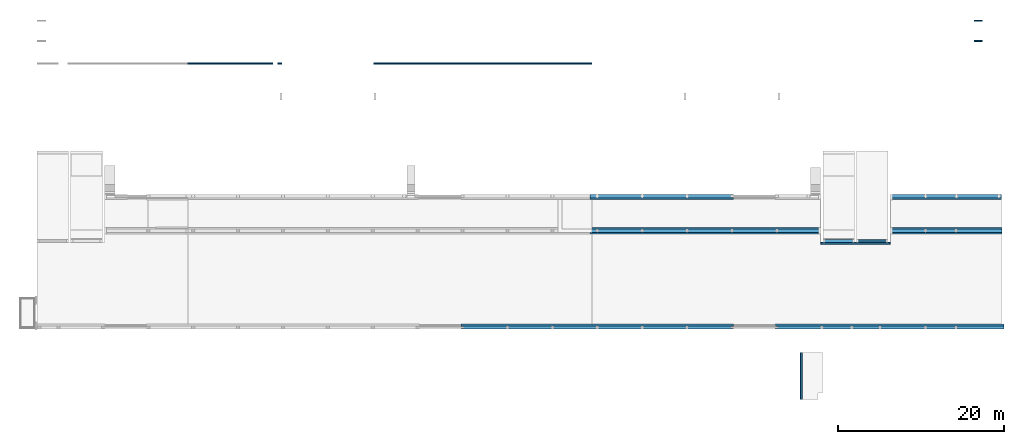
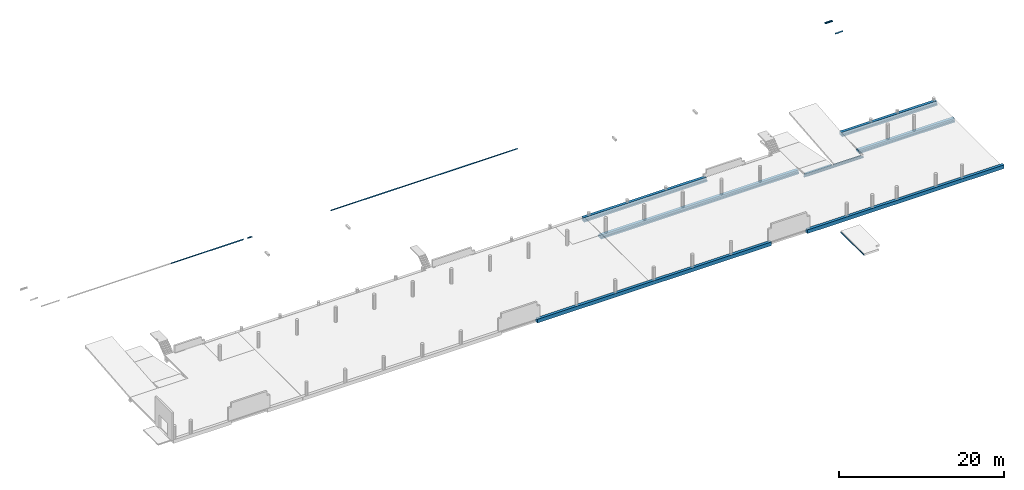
# One storey, part 2 of 6: 15 beams.
"""IFC2X3 building model written with IfcOpenShell, lengths in millimetres."""

from ifc_helpers import new_model, entity, si_unit, converted_unit, derived_unit, direction, frame, frame_2d, origin, place, context, subcontext, project, spatial, polyline, circle_curve, parameter, trimmed, segment, composite_curve, rectangle, outline, extrude, source, transform, mapped, material, type_object, type_shapes, element, save


model = new_model("IFC2X3")

# Units and contexts
model_context = context("Model", 3, precision=0.01, world=origin(), true_north=direction((6.12303176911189e-17, 1.0)))
body_context = subcontext(model_context, "Body", "Model", "MODEL_VIEW")
ifc_project = project(units=[si_unit("LENGTHUNIT", "METRE", prefix="MILLI"), si_unit("AREAUNIT", "SQUARE_METRE"), si_unit("VOLUMEUNIT", "CUBIC_METRE"), converted_unit("PLANEANGLEUNIT", "DEGREE", entity("IfcRatioMeasure", 0.0174532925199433), si_unit("PLANEANGLEUNIT", "RADIAN"), dimensions=[0, 0, 0, 0, 0, 0, 0]), si_unit("MASSUNIT", "GRAM", prefix="KILO"), derived_unit("MASSDENSITYUNIT", [(si_unit("MASSUNIT", "GRAM", prefix="KILO"), 1), (si_unit("LENGTHUNIT", "METRE"), -3)]), si_unit("TIMEUNIT", "SECOND"), si_unit("FREQUENCYUNIT", "HERTZ"), si_unit("THERMODYNAMICTEMPERATUREUNIT", "DEGREE_CELSIUS"), derived_unit("THERMALTRANSMITTANCEUNIT", [(si_unit("MASSUNIT", "GRAM", prefix="KILO"), 1), (si_unit("THERMODYNAMICTEMPERATUREUNIT", "KELVIN"), -1), (si_unit("TIMEUNIT", "SECOND"), -3)]), derived_unit("VOLUMETRICFLOWRATEUNIT", [(si_unit("LENGTHUNIT", "METRE"), 3), (si_unit("TIMEUNIT", "SECOND"), -1)]), si_unit("ELECTRICCURRENTUNIT", "AMPERE"), si_unit("ELECTRICVOLTAGEUNIT", "VOLT"), si_unit("POWERUNIT", "WATT"), si_unit("FORCEUNIT", "NEWTON", prefix="KILO"), si_unit("ILLUMINANCEUNIT", "LUX"), si_unit("LUMINOUSFLUXUNIT", "LUMEN"), si_unit("LUMINOUSINTENSITYUNIT", "CANDELA"), derived_unit("USERDEFINED", [(si_unit("MASSUNIT", "GRAM", prefix="KILO"), -1), (si_unit("LENGTHUNIT", "METRE"), -2), (si_unit("TIMEUNIT", "SECOND"), 3), (si_unit("LUMINOUSFLUXUNIT", "LUMEN"), 1)]), derived_unit("LINEARVELOCITYUNIT", [(si_unit("LENGTHUNIT", "METRE"), 1), (si_unit("TIMEUNIT", "SECOND"), -1)]), si_unit("PRESSUREUNIT", "PASCAL"), derived_unit("USERDEFINED", [(si_unit("LENGTHUNIT", "METRE"), -2), (si_unit("MASSUNIT", "GRAM", prefix="KILO"), 1), (si_unit("TIMEUNIT", "SECOND"), -2)])], contexts=[model_context])

# Site, building, storey
site_placement = place(None, origin())
site = spatial("IfcSite", under=ifc_project, at=site_placement, Name="Default", CompositionType="ELEMENT")
building_placement = place(site_placement, origin())
building = spatial("IfcBuilding", under=site, at=building_placement, Name="niet gebruiken", CompositionType="ELEMENT")
storey_placement = place(building_placement, frame((0.0, 0.0, 8370.0)))
storey = spatial("IfcBuildingStorey", under=building, at=storey_placement, Name="02a eerste tussenverdieping", CompositionType="ELEMENT", Elevation=8369.99999999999)

# Beams
ifc_material_1 = material(Name="NLRS_h2_staal")
beam_type_1 = type_object("IfcBeamType", Name="NLRS_28.11_SF_WPB_stalen ligger hoekprofiel gelijkzijdig_gen:ligger gelijzijdig hoekprofiel LEQU_150x150x15", PredefinedType="BEAM")
beam_1_placement = place(storey_placement, frame((120910.0, 46133.5000000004, -330.0)))
element("IfcBeam", 1, at=beam_1_placement, inside=storey, type_object=beam_type_1, material=ifc_material_1, Name="NLRS_28.11_SF_WPB_stalen ligger hoekprofiel gelijkzijdig_gen:ligger gelijzijdig hoekprofiel LEQU_150x150x15", ObjectType="NLRS_28.11_SF_WPB_stalen ligger hoekprofiel gelijkzijdig_gen:ligger gelijzijdig hoekprofiel LEQU_150x150x15", context=body_context, shape_type="SweptSolid", body=[
    extrude(outline(composite_curve([segment(polyline([(49.6666666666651, -93.3333333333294), (56.6666666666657, -93.3333333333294)]), True, "CONTINUOUS"), segment(polyline([(56.6666666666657, -93.3333333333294), (56.6666666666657, 56.6666666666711)]), True, "CONTINUOUS"), segment(polyline([(56.6666666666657, 56.6666666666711), (-93.3333333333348, 56.6666666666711)]), True, "CONTINUOUS"), segment(polyline([(-93.3333333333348, 56.6666666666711), (-93.3333333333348, 49.6666666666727)]), True, "CONTINUOUS"), segment(trimmed(circle_curve(frame_2d((-85.3333333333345, 49.6666666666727), x_axis=(-1.0, 0.0)), 7.99999999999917), [parameter(0.0)], [parameter(90.0000000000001)], True, "PARAMETER"), True, "CONTINUOUS"), segment(polyline([(-85.3333333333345, 41.6666666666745), (25.6666666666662, 41.6666666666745)]), True, "CONTINUOUS"), segment(trimmed(circle_curve(frame_2d((25.6666666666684, 25.6666666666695), x_axis=(0.0, 1.0)), 15.9999999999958), [parameter(269.999999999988)], [parameter(0.0)], True, "PARAMETER"), False, "CONTINUOUS"), segment(polyline([(41.6666666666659, 25.6666666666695), (41.6666666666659, -85.3333333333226)]), True, "CONTINUOUS"), segment(trimmed(circle_curve(frame_2d((49.6666666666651, -85.3333333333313), x_axis=(-1.0, 0.0)), 7.99999999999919), [parameter(0.0)], [parameter(90.0000000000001)], True, "PARAMETER"), True, "CONTINUOUS")], self_intersect=False)), frame((0.0, -14.1666666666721, 56.6666666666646), z_axis=(1.0, 0.0, 0.0), x_axis=(0.0, 0.0, -1.0)), (0.0, 0.0, 1.0), 999.999999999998),
])
beam_2_placement = place(storey_placement, frame((120910.0, 43618.5000000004, -330.0)))
element("IfcBeam", 2, at=beam_2_placement, inside=storey, type_object=beam_type_1, material=ifc_material_1, Name="NLRS_28.11_SF_WPB_stalen ligger hoekprofiel gelijkzijdig_gen:ligger gelijzijdig hoekprofiel LEQU_150x150x15", ObjectType="NLRS_28.11_SF_WPB_stalen ligger hoekprofiel gelijkzijdig_gen:ligger gelijzijdig hoekprofiel LEQU_150x150x15", context=body_context, shape_type="SweptSolid", body=[
    extrude(outline(composite_curve([segment(polyline([(-93.3333333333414, -56.6666666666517), (56.6666666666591, -56.6666666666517)]), True, "CONTINUOUS"), segment(polyline([(56.6666666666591, -56.666666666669), (56.6666666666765, 93.3333333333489)]), True, "CONTINUOUS"), segment(polyline([(56.6666666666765, 93.3333333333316), (49.6666666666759, 93.3333333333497)]), True, "CONTINUOUS"), segment(trimmed(circle_curve(frame_2d((49.666666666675, 85.3333333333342), x_axis=(0.0, 1.0)), 7.99999999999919), [parameter(0.0)], [parameter(90.0000000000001)], True, "PARAMETER"), True, "CONTINUOUS"), segment(polyline([(41.6666666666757, 85.3333333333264), (41.6666666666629, -25.666666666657)]), True, "CONTINUOUS"), segment(trimmed(circle_curve(frame_2d((25.6666666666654, -25.6666666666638), x_axis=(1.0, 0.0)), 15.9999999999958), [parameter(269.999999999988)], [parameter(0.0)], True, "PARAMETER"), False, "CONTINUOUS"), segment(polyline([(25.6666666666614, -41.6666666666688), (-85.3333333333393, -41.6666666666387)]), True, "CONTINUOUS"), segment(trimmed(circle_curve(frame_2d((-85.3333333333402, -49.6666666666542), x_axis=(0.0, 1.0)), 7.99999999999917), [parameter(0.0)], [parameter(90.0000000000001)], True, "PARAMETER"), True, "CONTINUOUS"), segment(polyline([(-93.3333333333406, -49.6666666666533), (-93.3333333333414, -56.666666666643)]), True, "CONTINUOUS")], self_intersect=False)), frame((0.0, 14.1666666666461, 56.6666666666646), z_axis=(1.0, 0.0, 0.0), x_axis=(0.0, 0.0, -1.0)), (0.0, 0.0, 1.0), 1000.0),
])
ifc_material_2 = material(Name="NLRS_f2_beton prefab")
beam_type_2 = type_object("IfcBeamType", Name="NLRS_28.11_SF_WPB_prefabbeton balk enkele sponning_gen:600x540/200x200", PredefinedType="BEAM")
beam_3_placement = place(storey_placement, frame((74750.0, 24876.0, 10.0)))
element("IfcBeam", 3, at=beam_3_placement, inside=storey, type_object=beam_type_2, material=ifc_material_2, Name="NLRS_28.11_SF_WPB_prefabbeton balk enkele sponning_gen:600x540/200x200", ObjectType="NLRS_28.11_SF_WPB_prefabbeton balk enkele sponning_gen:600x540/200x200", context=body_context, shape_type="SweptSolid", body=[
    extrude(outline(polyline([(46.6666666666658, -266.666666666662), (246.666666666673, -266.666666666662), (246.666666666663, 333.333333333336), (-293.333333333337, 333.333333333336), (-293.333333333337, -66.6666666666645), (46.6666666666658, -66.6666666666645), (46.6666666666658, -266.666666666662)])), frame((0.0, -33.3333333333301, -293.333333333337), z_axis=(1.0, 0.0, 0.0), x_axis=(0.0, 0.0, -1.0)), (0.0, 0.0, 1.0), 17250.0000000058),
])
beam_4_placement = place(storey_placement, frame((110845.0, 24876.0, 10.0)))
element("IfcBeam", 4, at=beam_4_placement, inside=storey, type_object=beam_type_2, material=ifc_material_2, Name="NLRS_28.11_SF_WPB_prefabbeton balk enkele sponning_gen:600x540/200x200", ObjectType="NLRS_28.11_SF_WPB_prefabbeton balk enkele sponning_gen:600x540/200x200", context=body_context, shape_type="SweptSolid", body=[
    extrude(outline(polyline([(46.6666666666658, -266.666666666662), (246.666666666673, -266.666666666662), (246.666666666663, 333.333333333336), (-293.333333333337, 333.333333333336), (-293.333333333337, -66.6666666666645), (46.6666666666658, -66.6666666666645), (46.6666666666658, -266.666666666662)])), frame((0.0, -33.3333333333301, -293.333333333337), z_axis=(1.0, 0.0, 0.0), x_axis=(0.0, 0.0, -1.0)), (0.0, 0.0, 1.0), 13365.0000000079),
])
beam_5_placement = place(storey_placement, frame((97000.0, 9296.0, 10.0)))
element("IfcBeam", 5, at=beam_5_placement, inside=storey, type_object=beam_type_2, material=ifc_material_2, Name="NLRS_28.11_SF_WPB_prefabbeton balk enkele sponning_gen:600x540/200x200", ObjectType="NLRS_28.11_SF_WPB_prefabbeton balk enkele sponning_gen:600x540/200x200", context=body_context, shape_type="SweptSolid", body=[
    extrude(outline(polyline([(-293.333333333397, -333.333333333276), (246.666666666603, -333.333333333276), (246.666666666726, 266.666666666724), (46.6666666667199, 266.666666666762), (46.6666666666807, 66.6666666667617), (-293.333333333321, 66.6666666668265), (-293.333333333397, -333.333333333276)])), frame((0.0, 33.333333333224, -293.333333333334), z_axis=(1.0, 0.0, 0.0), x_axis=(0.0, 0.0, -1.0)), (0.0, 0.0, 1.0), 27510.0000000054),
])
beam_type_3 = type_object("IfcBeamType", Name="NLRS_28.11_SF_WPB_prefabbeton balk dubbele sponning_gen:800x460/200x260/200x260", PredefinedType="BEAM")
beam_6_placement = place(storey_placement, frame((74750.0, 20846.0, -70.0)))
element("IfcBeam", 6, at=beam_6_placement, inside=storey, type_object=beam_type_3, material=ifc_material_2, Name="NLRS_28.11_SF_WPB_prefabbeton balk dubbele sponning_gen:800x460/200x260/200x260", ObjectType="NLRS_28.11_SF_WPB_prefabbeton balk dubbele sponning_gen:800x460/200x260/200x260", context=body_context, shape_type="SweptSolid", body=[
    extrude(outline(polyline([(15.0, -400.0), (215.0, -400.0), (215.0, 400.0), (15.0, 400.0), (15.0, 200.0), (-245.0, 200.0), (-245.0, -200.0), (15.0, -200.0), (15.0, -400.0)])), frame((0.0, 0.0, -245.0), z_axis=(1.0, 0.0, 0.0), x_axis=(0.0, 0.0, -1.0)), (0.0, 0.0, 1.0), 27705.0000000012),
])
beam_7_placement = place(storey_placement, frame((110845.0, 20846.0, -70.0)))
element("IfcBeam", 7, at=beam_7_placement, inside=storey, type_object=beam_type_3, material=ifc_material_2, Name="NLRS_28.11_SF_WPB_prefabbeton balk dubbele sponning_gen:800x460/200x260/200x260", ObjectType="NLRS_28.11_SF_WPB_prefabbeton balk dubbele sponning_gen:800x460/200x260/200x260", context=body_context, shape_type="SweptSolid", body=[
    extrude(outline(polyline([(15.0, -400.0), (215.0, -400.0), (215.0, 400.0), (15.0, 400.0), (15.0, 200.0), (-245.0, 200.0), (-245.0, -200.0), (15.0, -200.0), (15.0, -400.0)])), frame((0.0, 0.0, -245.0), z_axis=(1.0, 0.0, 0.0), x_axis=(0.0, 0.0, -1.0)), (0.0, 0.0, 1.0), 13435.0),
])
beam_type_4 = type_object("IfcBeamType", Name="NLRS_28.11_SF_WPB_stalen ligger hoekprofiel gelijkzijdig_gen:ligger gelijzijdig hoekprofiel LEQU_200x200x15", PredefinedType="BEAM")
beam_8_placement = place(storey_placement, frame((102475.0, 19226.0, -252.500000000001)))
element("IfcBeam", 8, at=beam_8_placement, inside=storey, type_object=beam_type_4, material=ifc_material_1, Name="NLRS_28.11_SF_WPB_stalen ligger hoekprofiel gelijkzijdig_gen:ligger gelijzijdig hoekprofiel LEQU_200x200x15", ObjectType="NLRS_28.11_SF_WPB_stalen ligger hoekprofiel gelijkzijdig_gen:ligger gelijzijdig hoekprofiel LEQU_200x200x15", context=body_context, shape_type="SweptSolid", body=[
    extrude(outline(composite_curve([segment(polyline([(66.3333333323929, -126.666666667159), (73.3333333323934, -126.666666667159)]), True, "CONTINUOUS"), segment(polyline([(73.3333333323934, -126.666666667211), (73.3333333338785, 73.3333333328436)]), True, "CONTINUOUS"), segment(polyline([(73.3333333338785, 73.3333333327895), (-126.666666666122, 73.3333333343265)]), True, "CONTINUOUS"), segment(polyline([(-126.666666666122, 73.3333333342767), (-126.666666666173, 66.3333333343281)]), True, "CONTINUOUS"), segment(trimmed(circle_curve(frame_2d((-118.666666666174, 66.3333333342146), x_axis=(-1.0, 0.0)), 8.00000000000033), [parameter(0.0)], [parameter(90.0000000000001)], True, "PARAMETER"), True, "CONTINUOUS"), segment(polyline([(-118.666666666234, 58.3333333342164), (42.3333333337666, 58.3333333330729)]), True, "CONTINUOUS"), segment(trimmed(circle_curve(frame_2d((42.3333333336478, 42.3333333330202), x_axis=(0.0, 1.0)), 15.9999999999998), [parameter(270.0)], [parameter(0.0)], True, "PARAMETER"), False, "CONTINUOUS"), segment(polyline([(58.3333333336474, 42.3333333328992), (58.3333333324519, -118.666666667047)]), True, "CONTINUOUS"), segment(trimmed(circle_curve(frame_2d((66.3333333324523, -118.666666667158), x_axis=(-1.0, 0.0)), 8.00000000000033), [parameter(0.0)], [parameter(90.0000000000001)], True, "PARAMETER"), True, "CONTINUOUS")], self_intersect=False)), frame((0.0, 126.666666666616, -19.1666666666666), z_axis=(1.0, 0.0, 0.0), x_axis=(0.0, 0.0, -1.0)), (0.0, 0.0, 1.0), 8350.00000000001),
])
beam_9_placement = place(storey_placement, frame((100117.5, 6180.0, 250.0), z_axis=(0.0, 0.0, 1.0), x_axis=(0.0, -1.0, 0.0)))
element("IfcBeam", 9, at=beam_9_placement, inside=storey, type_object=beam_type_4, material=ifc_material_1, Name="NLRS_28.11_SF_WPB_stalen ligger hoekprofiel gelijkzijdig_gen:ligger gelijzijdig hoekprofiel LEQU_200x200x15", ObjectType="NLRS_28.11_SF_WPB_stalen ligger hoekprofiel gelijkzijdig_gen:ligger gelijzijdig hoekprofiel LEQU_200x200x15", context=body_context, shape_type="SweptSolid", body=[
    extrude(outline(composite_curve([segment(polyline([(-126.666666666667, -73.3333333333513), (73.3333333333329, -73.3333333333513)]), True, "CONTINUOUS"), segment(polyline([(73.3333333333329, -73.333333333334), (73.3333333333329, 126.666666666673)]), True, "CONTINUOUS"), segment(polyline([(73.3333333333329, 126.666666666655), (66.3333333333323, 126.666666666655)]), True, "CONTINUOUS"), segment(trimmed(circle_curve(frame_2d((66.3333333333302, 118.666666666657), x_axis=(0.0, 1.0)), 7.9999999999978), [parameter(0.0)], [parameter(90.0000000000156)], True, "PARAMETER"), True, "CONTINUOUS"), segment(polyline([(58.333333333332, 118.666666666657), (58.333333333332, -42.333333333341)]), True, "CONTINUOUS"), segment(trimmed(circle_curve(frame_2d((42.3333333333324, -42.333333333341), x_axis=(1.0, 0.0)), 15.9999999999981), [parameter(270.0)], [parameter(0.0)], True, "PARAMETER"), False, "CONTINUOUS"), segment(polyline([(42.3333333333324, -58.3333333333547), (-118.666666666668, -58.3333333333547)]), True, "CONTINUOUS"), segment(trimmed(circle_curve(frame_2d((-118.66666666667, -66.3333333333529), x_axis=(0.0, 1.0)), 7.9999999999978), [parameter(0.0)], [parameter(90.0000000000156)], True, "PARAMETER"), True, "CONTINUOUS"), segment(polyline([(-126.666666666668, -66.3333333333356), (-126.666666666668, -73.333333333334)]), True, "CONTINUOUS")], self_intersect=False)), frame((0.0, -19.1666666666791, 73.3333333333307), z_axis=(1.0, 0.0, 0.0), x_axis=(0.0, 0.0, -1.0)), (0.0, 0.0, 1.0), 5624.9999999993),
])
beam_type_5 = type_object("IfcBeamType", Name="600x540/200x200", PredefinedType="BEAM", material=ifc_material_2)
shared_shape = source(origin(), body_context, "Body", "SweptSolid", [
    extrude(outline(polyline([(-350.0, -308.749999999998), (250.0, -308.749999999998), (250.0, -108.750000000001), (50.0, -108.75), (50.0, 151.250000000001), (50.0, 221.250000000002), (50.0, 231.250000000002), (-350.0, 231.250000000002), (-350.0, -308.749999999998)])), frame((59200.0, 9346.0, 8148.74999999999), z_axis=(1.0, 0.0, 0.0), x_axis=(0.0, 1.0, 0.0)), (0.0, 0.0, 1.0), 15260.0000000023),
    extrude(outline(polyline([(-250.0, -108.75), (-250.0, -308.749999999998), (350.0, -308.75), (350.0, 231.25), (-50.0, 231.250000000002), (-50.0, 221.250000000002), (-50.0, 151.250000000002), (-50.0, -108.75), (-250.0, -108.75)])), frame((74479.9998372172, 9346.0, 8148.74999999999), z_axis=(-1.0, 0.0, 0.0), x_axis=(0.0, -1.0, 0.0)), (0.0, 0.0, -1.0), 17520.0001627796),
])
type_shapes(beam_type_5, [shared_shape])
beam_10_placement = place(storey_placement, frame((0.0, 0.0, -8370.0)))
element("IfcBeam", 10, at=beam_10_placement, inside=storey, type_object=beam_type_5, material=ifc_material_2, Name="NLRS_28.11_SF_WPB_prefabbeton balk enkele sponning_gen:600x540/200x200", ObjectType="600x540/200x200", context=body_context, shape_type="MappedRepresentation", body=[
    mapped(shared_shape, transform((0.0, 0.0, 0.0), scale=1.0)),
])
beam_type_6 = type_object("IfcBeamType", Name="NLRS_28.11_SF_WPB_prefabbeton balk recht_gen:380x350", PredefinedType="BEAM")
beam_11_placement = place(storey_placement, frame((106505.0, 19616.0, -100.0), z_axis=(0.0, 0.0, 1.0), x_axis=(-1.0, 0.0, 0.0)))
element("IfcBeam", 11, at=beam_11_placement, inside=storey, type_object=beam_type_6, material=ifc_material_2, Name="NLRS_28.11_SF_WPB_prefabbeton balk recht_gen:380x350", ObjectType="NLRS_28.11_SF_WPB_prefabbeton balk recht_gen:380x350", context=body_context, shape_type="SweptSolid", body=[
    extrude(rectangle(XDim=349.999999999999, YDim=379.999999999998, at=frame_2d((5.40012479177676e-13, -2.38173925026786e-11), x_axis=(1.0, 0.0))), frame((0.0, 0.0, -175.0), z_axis=(1.0, 0.0, 0.0), x_axis=(0.0, 0.0, -1.0)), (0.0, 0.0, 1.0), 3760.00000000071),
])
beam_type_7 = type_object("IfcBeamType", Name="NLRS_28.11_SF_WPB_prefabbeton balk enkele sponning_gen:380x370/180x150", PredefinedType="BEAM")
beam_12_placement = place(storey_placement, frame((110555.0, 19616.0, -80.0), z_axis=(0.0, 0.0, 1.0), x_axis=(-1.0, 0.0, 0.0)))
element("IfcBeam", 12, at=beam_12_placement, inside=storey, type_object=beam_type_7, material=ifc_material_2, Name="NLRS_28.11_SF_WPB_prefabbeton balk enkele sponning_gen:380x370/180x150", ObjectType="NLRS_28.11_SF_WPB_prefabbeton balk enkele sponning_gen:380x370/180x150", context=body_context, shape_type="SweptSolid", body=[
    extrude(outline(polyline([(-23.3333333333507, -186.66666666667), (196.666666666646, -186.66666666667), (196.666666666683, 193.333333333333), (-173.333333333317, 193.333333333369), (-173.333333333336, -6.66666666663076), (-23.3333333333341, -6.66666666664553), (-23.3333333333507, -186.66666666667)])), frame((0.0, -3.33333333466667, -173.333333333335), z_axis=(1.0, 0.0, 0.0), x_axis=(0.0, 0.0, -1.0)), (0.0, 0.0, 1.0), 3759.99999999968),
])
beam_type_8 = type_object("IfcBeamType", Name="NLRS_28.11_SF_WPB_stalen ligger hoekprofiel gelijkzijdig_gen:ligger gelijzijdig hoekprofiel LEQU_200x200x16", PredefinedType="BEAM")
beam_13_placement = place(storey_placement, frame((48745.0, 41061.0, 440.0)))
element("IfcBeam", 13, at=beam_13_placement, inside=storey, type_object=beam_type_8, material=ifc_material_1, Name="NLRS_28.11_SF_WPB_stalen ligger hoekprofiel gelijkzijdig_gen:ligger gelijzijdig hoekprofiel LEQU_200x200x16", ObjectType="NLRS_28.11_SF_WPB_stalen ligger hoekprofiel gelijkzijdig_gen:ligger gelijzijdig hoekprofiel LEQU_200x200x16", context=body_context, shape_type="SweptSolid", body=[
    extrude(outline(composite_curve([segment(polyline([(-73.7777777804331, -126.222222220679), (-66.7777777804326, -126.222222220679)]), True, "CONTINUOUS"), segment(trimmed(circle_curve(frame_2d((-66.7777777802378, -117.222222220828), x_axis=(0.0, -1.0)), 8.99999999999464), [parameter(0.0)], [parameter(90.0000000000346)], True, "PARAMETER"), True, "CONTINUOUS"), segment(polyline([(-57.7777777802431, -117.222222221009), (-57.77777777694, 39.7777777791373)]), True, "CONTINUOUS"), segment(trimmed(circle_curve(frame_2d((-39.777777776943, 39.7777777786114), x_axis=(-1.0, 0.0)), 17.9999999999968), [parameter(269.99999999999)], [parameter(0.0)], True, "PARAMETER"), False, "CONTINUOUS"), segment(polyline([(-39.7777777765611, 57.7777777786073), (117.222222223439, 57.7777777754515)]), True, "CONTINUOUS"), segment(trimmed(circle_curve(frame_2d((117.222222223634, 66.7777777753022), x_axis=(0.0, -1.0)), 8.99999999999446), [parameter(0.0)], [parameter(90.0000000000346)], True, "PARAMETER"), True, "CONTINUOUS"), segment(polyline([(126.222222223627, 66.7777777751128), (126.222222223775, 73.7777777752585)]), True, "CONTINUOUS"), segment(polyline([(126.222222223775, 73.7777777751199), (-73.7777777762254, 73.7777777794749)]), True, "CONTINUOUS"), segment(polyline([(-73.7777777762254, 73.7777777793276), (-73.7777777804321, -126.222222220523)]), True, "CONTINUOUS")], self_intersect=False)), frame((0.0, -73.7777777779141, -73.7777777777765), z_axis=(1.0, 0.0, 0.0), x_axis=(0.0, 0.0, -1.0)), (0.0, 0.0, 1.0), 26169.9999999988),
])
beam_14_placement = place(storey_placement, frame((26370.0, 41061.0, 440.0)))
element("IfcBeam", 14, at=beam_14_placement, inside=storey, type_object=beam_type_8, material=ifc_material_1, Name="NLRS_28.11_SF_WPB_stalen ligger hoekprofiel gelijkzijdig_gen:ligger gelijzijdig hoekprofiel LEQU_200x200x16", ObjectType="NLRS_28.11_SF_WPB_stalen ligger hoekprofiel gelijkzijdig_gen:ligger gelijzijdig hoekprofiel LEQU_200x200x16", context=body_context, shape_type="SweptSolid", body=[
    extrude(outline(composite_curve([segment(polyline([(-73.7777777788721, -126.222222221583), (-66.7777777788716, -126.222222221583)]), True, "CONTINUOUS"), segment(trimmed(circle_curve(frame_2d((-66.7777777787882, -117.222222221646), x_axis=(0.0, -1.0)), 8.99999999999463), [parameter(0.0)], [parameter(90.0000000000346)], True, "PARAMETER"), True, "CONTINUOUS"), segment(polyline([(-57.7777777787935, -117.222222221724), (-57.7777777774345, 39.7777777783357)]), True, "CONTINUOUS"), segment(trimmed(circle_curve(frame_2d((-39.7777777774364, 39.7777777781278), x_axis=(-1.0, 0.0)), 17.9999999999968), [parameter(269.99999999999)], [parameter(0.0)], True, "PARAMETER"), False, "CONTINUOUS"), segment(polyline([(-39.7777777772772, 57.7777777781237), (117.222222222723, 57.7777777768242)]), True, "CONTINUOUS"), segment(trimmed(circle_curve(frame_2d((117.222222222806, 66.7777777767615), x_axis=(0.0, -1.0)), 8.99999999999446), [parameter(0.0)], [parameter(90.0000000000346)], True, "PARAMETER"), True, "CONTINUOUS"), segment(polyline([(126.2222222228, 66.7777777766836), (126.22222222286, 73.7777777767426)]), True, "CONTINUOUS"), segment(polyline([(126.22222222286, 73.7777777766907), (-73.7777777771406, 73.7777777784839)]), True, "CONTINUOUS"), segment(polyline([(-73.7777777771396, 73.7777777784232), (-73.7777777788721, -126.222222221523)]), True, "CONTINUOUS")], self_intersect=False)), frame((0.0, -73.7777777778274, -73.7777777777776), z_axis=(1.0, 0.0, 0.0), x_axis=(0.0, 0.0, -1.0)), (0.0, 0.0, 1.0), 10204.9999999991),
])
beam_15_placement = place(storey_placement, frame((37175.0, 41061.0, 440.0)))
element("IfcBeam", 15, at=beam_15_placement, inside=storey, type_object=beam_type_8, material=ifc_material_1, Name="NLRS_28.11_SF_WPB_stalen ligger hoekprofiel gelijkzijdig_gen:ligger gelijzijdig hoekprofiel LEQU_200x200x16", ObjectType="NLRS_28.11_SF_WPB_stalen ligger hoekprofiel gelijkzijdig_gen:ligger gelijzijdig hoekprofiel LEQU_200x200x16", context=body_context, shape_type="SweptSolid", body=[
    extrude(outline(composite_curve([segment(polyline([(-73.7777777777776, -126.222222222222), (-66.777777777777, -126.222222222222)]), True, "CONTINUOUS"), segment(trimmed(circle_curve(frame_2d((-66.7777777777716, -117.222222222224), x_axis=(0.0, -1.0)), 8.99999999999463), [parameter(0.0)], [parameter(90.0000000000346)], True, "PARAMETER"), True, "CONTINUOUS"), segment(polyline([(-57.7777777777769, -117.222222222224), (-57.777777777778, 39.7777777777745)]), True, "CONTINUOUS"), segment(trimmed(circle_curve(frame_2d((-39.7777777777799, 39.7777777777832), x_axis=(-1.0, 0.0)), 17.9999999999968), [parameter(269.99999999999)], [parameter(0.0)], True, "PARAMETER"), False, "CONTINUOUS"), segment(polyline([(-39.7777777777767, 57.7777777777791), (117.222222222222, 57.7777777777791)]), True, "CONTINUOUS"), segment(trimmed(circle_curve(frame_2d((117.222222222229, 66.777777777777), x_axis=(0.0, -1.0)), 8.99999999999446), [parameter(0.0)], [parameter(90.0000000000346)], True, "PARAMETER"), True, "CONTINUOUS"), segment(polyline([(126.222222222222, 66.777777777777), (126.222222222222, 73.7777777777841)]), True, "CONTINUOUS"), segment(polyline([(126.222222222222, 73.7777777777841), (-73.7777777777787, 73.7777777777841)]), True, "CONTINUOUS"), segment(polyline([(-73.7777777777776, 73.7777777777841), (-73.7777777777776, -126.222222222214)]), True, "CONTINUOUS")], self_intersect=False)), frame((0.0, -73.7777777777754, -73.7777777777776), z_axis=(1.0, 0.0, 0.0), x_axis=(0.0, 0.0, -1.0)), (0.0, 0.0, 1.0), 480.000000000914),
])

save(model, "model.ifc")
